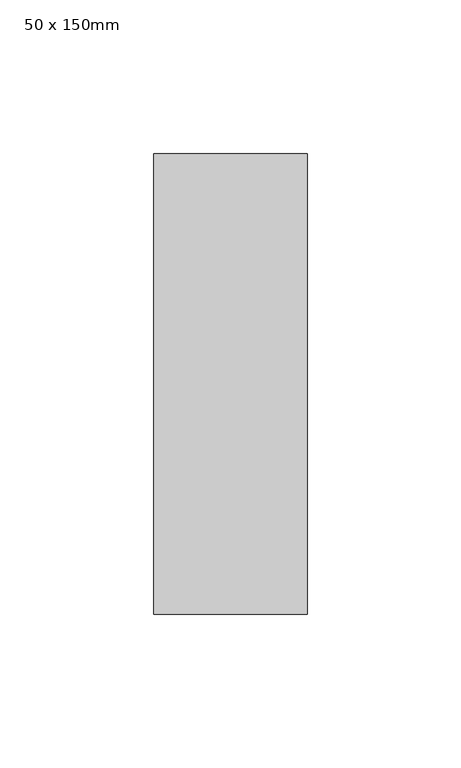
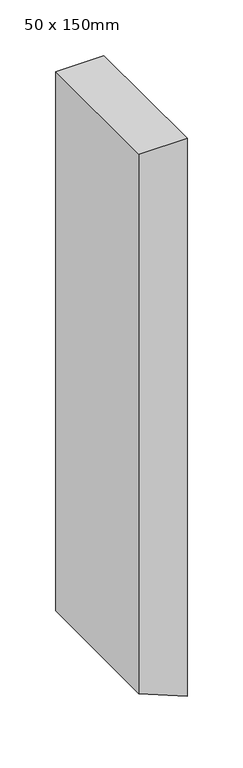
"""IFC4 building model written with IfcOpenShell, lengths in millimetres: member geometry, Prostokątny szpros : 50 x 150mm."""

from ifc_helpers import new_model, si_unit, frame, origin, place, context, project, spatial, polyline, outline, extrude, source, transform, mapped, element, save


def member_50_x_150mm_01f509d8(model_context):
    return source(origin(), model_context, "Body", "SweptSolid", [
        extrude(outline(polyline([(0.0, 0.0), (0.0, -50.0), (-592.402598, -50.0), (-613.1132761, 0.0), (0.0, 0.0)])), frame((0.0, -75.0, 0.0), z_axis=(0.0, 1.0, 0.0), x_axis=(0.0, 0.0, 1.0)), (0.0, 0.0, 1.0), 150.0),
    ])


if __name__ == "__main__":
    model = new_model("IFC4")
    model_context = context("Model", 3, world=origin())
    ifc_project = project(units=[si_unit("LENGTHUNIT", "METRE", prefix="MILLI")], contexts=[model_context])
    site = spatial("IfcSite", under=ifc_project)
    building = spatial("IfcBuilding", under=site)
    placement = place(None, origin())
    member_50_x_150mm_shape = member_50_x_150mm_01f509d8(model_context)
    element("IfcMember", 1, ObjectType="Prostokątny szpros : 50 x 150mm", at=placement, inside=building, context=model_context, shape_type="MappedRepresentation", body=[
        mapped(member_50_x_150mm_shape, transform((0.0, 0.0, 0.0), x_axis=(1.0, 0.0, 0.0), y_axis=(0.0, 1.0, 0.0), z_axis=(0.0, 0.0, 1.0))),
    ])
    save(model, "model.ifc")
